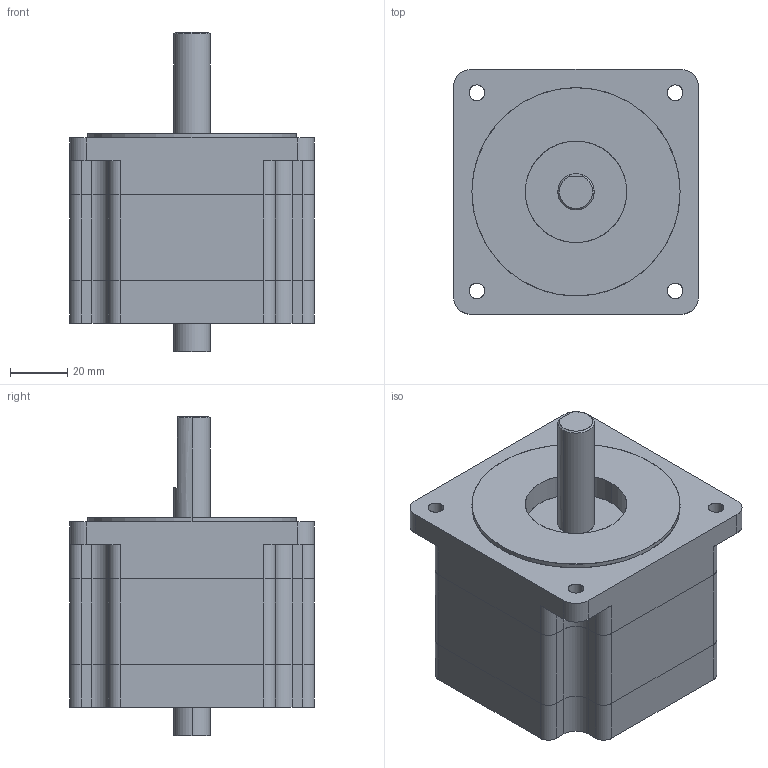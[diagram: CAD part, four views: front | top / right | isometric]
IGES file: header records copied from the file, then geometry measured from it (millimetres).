
Start section: SolidWorks IGES file using analytic representation for surfaces
Global section: file name: C:\Users\Christine\Documents\Arcus\Project #21\STM-34-1-1\STM-34-1-1.IGS; native system: SolidWorks 2008; preprocessor: SolidWorks 2008; author: Christine; date: 131028.134651; units: millimetre
Bounding box: 85.85 x 85.85 x 112 mm (x, y, z)
Surface area: 66653.8 mm2 (no closed solid volume)
Topology: 0 solids, 0 shells, 141 faces, 2208 edges, 2196 vertices
Faces by surface type: revolution 87, bspline 54
